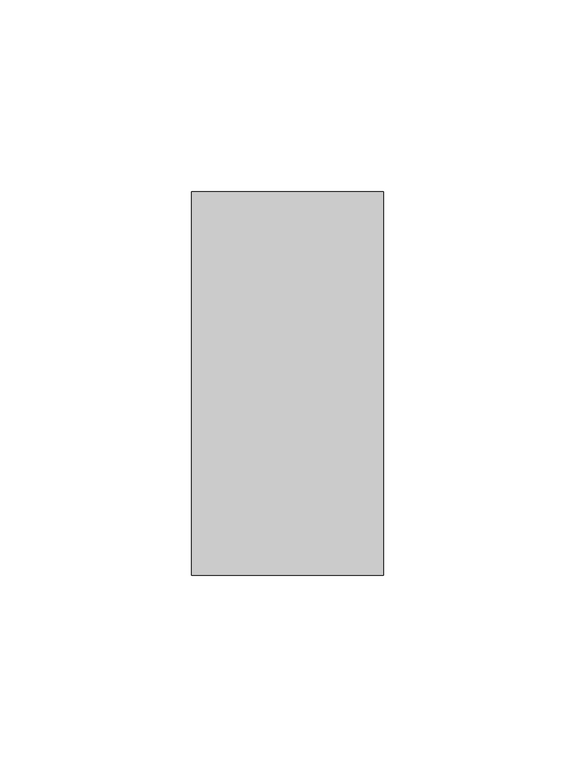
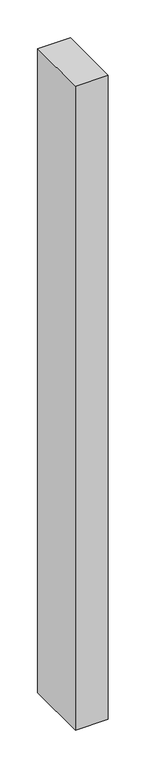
"""IFC4 building model written with IfcOpenShell, lengths in millimetres: member geometry, Прямоугольный импост : 50х100."""

from ifc_helpers import new_model, si_unit, frame, origin, place, context, project, spatial, polyline, outline, extrude, source, transform, mapped, element, save


def member_968ebf7a(model_context):
    return source(origin(), model_context, "Body", "SweptSolid", [
        extrude(outline(polyline([(25.0, 50.0), (25.0, -50.0), (-25.0, -50.0), (-25.0, 50.0), (25.0, 50.0)])), frame((0.0, 0.0, -1040.0), z_axis=(0.0, 0.0, 1.0), x_axis=(1.0, 0.0, 0.0)), (0.0, 0.0, 1.0), 1040.0),
    ])


if __name__ == "__main__":
    model = new_model("IFC4")
    model_context = context("Model", 3, world=origin())
    ifc_project = project(units=[si_unit("LENGTHUNIT", "METRE", prefix="MILLI")], contexts=[model_context])
    site = spatial("IfcSite", under=ifc_project)
    building = spatial("IfcBuilding", under=site)
    placement = place(None, origin())
    member_shape = member_968ebf7a(model_context)
    element("IfcMember", 1, ObjectType="Прямоугольный импост : 50х100", at=placement, inside=building, context=model_context, shape_type="MappedRepresentation", body=[
        mapped(member_shape, transform((0.0, 0.0, 0.0), x_axis=(1.0, 0.0, 0.0), y_axis=(0.0, 1.0, 0.0), z_axis=(0.0, 0.0, 1.0))),
    ])
    save(model, "model.ifc")
